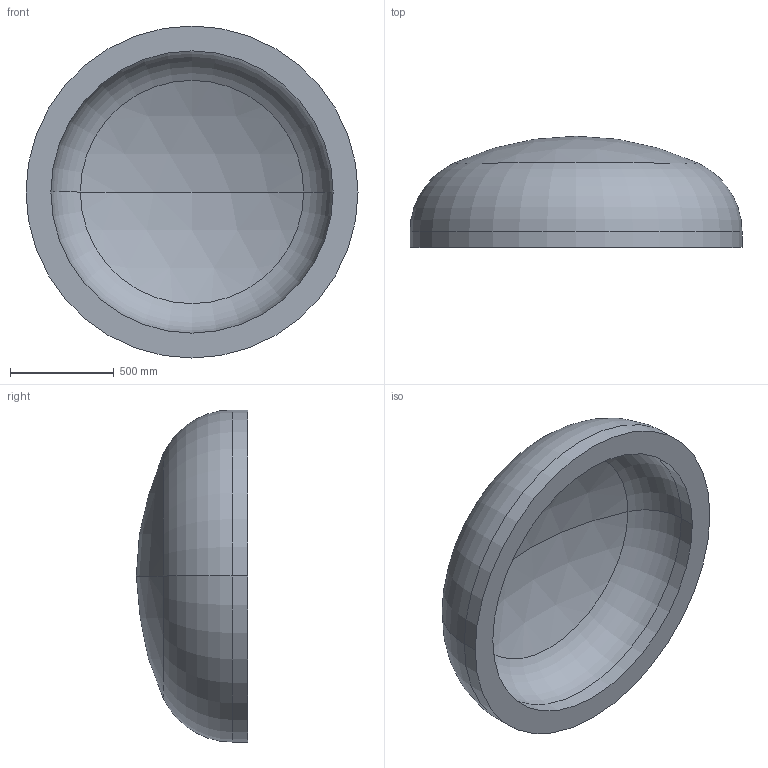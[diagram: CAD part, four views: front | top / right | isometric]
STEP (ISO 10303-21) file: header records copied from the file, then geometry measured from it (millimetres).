
FILE_DESCRIPTION (( 'STEP AP203' ), '1' );
FILE_NAME ('DIN 28013 Korbbogenform_-_Boden DIN 28013 - 1600 x 75 - I - s=120.step', '2016-07-01T11:33:32', ( '' ), ( '' ), 'SwSTEP 2.0', 'SolidWorks 2013', '' );
FILE_SCHEMA (( 'CONFIG_CONTROL_DESIGN' ));
Length unit declared in the file: millimetre
Products named in the file (1): DIN 28013 Korbbogenform_-_Boden DIN 28013 - 1600 x 75 - I - s=120
Bounding box: 1600 x 535.85 x 1600 mm (x, y, z)
Volume: 345517025.9 mm3; surface area: 6346722 mm2
Topology: 1 solids, 1 shells, 13 faces, 24 edges, 14 vertices
Faces by surface type: torus 4, cylinder 4, sphere 4, plane 1
Entity records: 407 total; most frequent: DIRECTION 72, CARTESIAN_POINT 52, ORIENTED_EDGE 48, AXIS2_PLACEMENT_3D 34, EDGE_CURVE 24, CIRCLE 20, EDGE_LOOP 14, VERTEX_POINT 14
